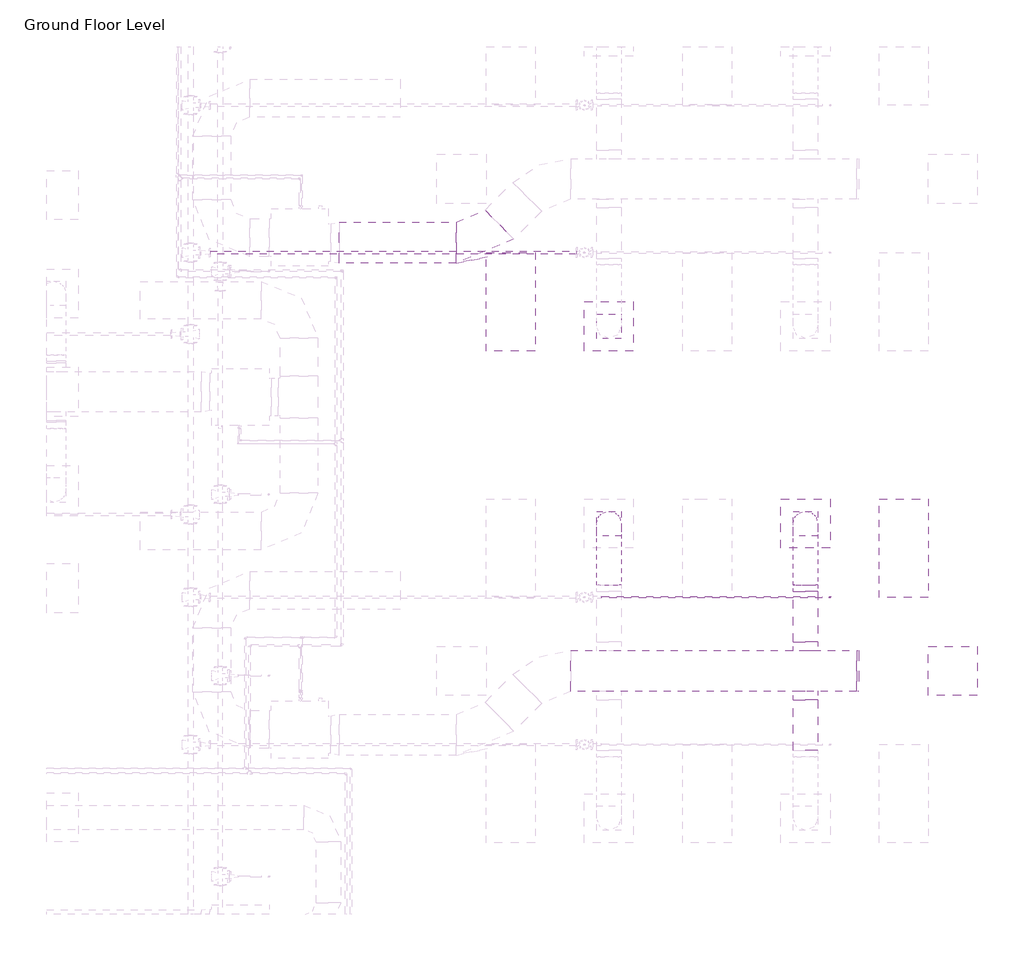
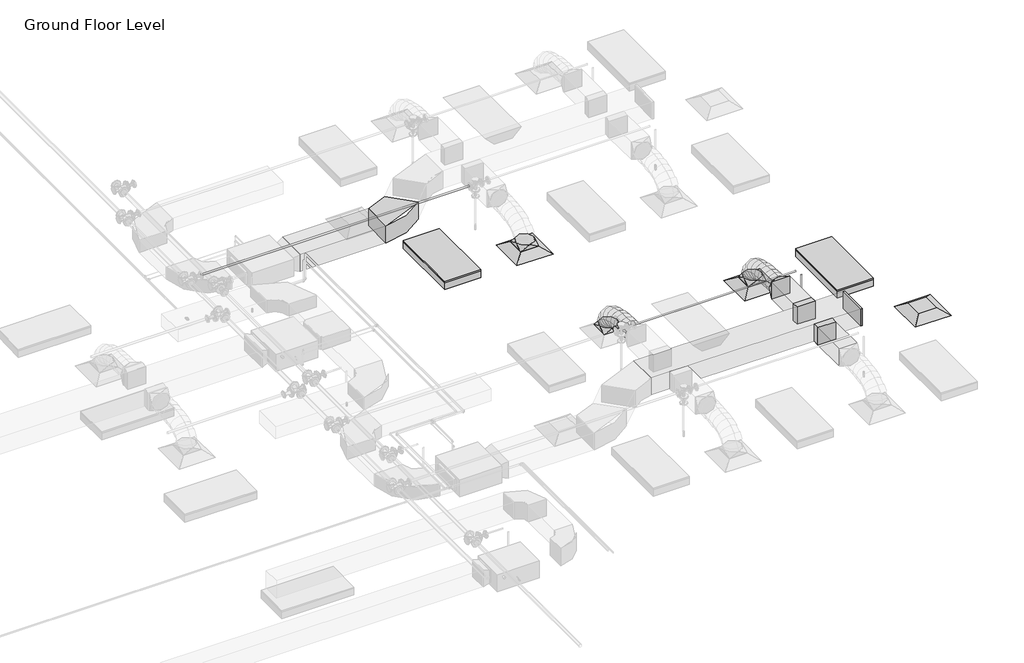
# One storey, part 63 of 74: 8 duct fittings, 6 duct segments, 3 air terminals, 3 pipe segments, 2 light fixtures, 1 fire suppression terminal.
"""IFC4 building model written with IfcOpenShell, lengths in millimetres."""

from ifc_helpers import new_model, si_unit, point, frame, frame_2d, origin, place, context, project, spatial, polyline, circle_curve, ellipse_curve, trimmed, segment, composite_curve, outline, extrude, transform, mapped, element, save
from ifc_brep_helpers import plane_surface, cylinder_surface, advanced_brep
from components import m_return_diffuser_600_x_600_face_300_x_300_connection_ff221211, m_rectangular_elbow_radius_1_5_w_acc56c25, m_rectangular_endcap_standard_72d4d00d, m_rectangular_takeoff_standard_cb0ccb98, m_rectangular_takeoff_standard_2be5eba1, m_rectangular_to_round_transition_angle_45_degree_641efff0, m_sprinkler_dry_pendent_hosted_15_mm_dry_pendent_9bda8e11, m_troffer_light_parabolic_rectangular1_0600x1200mm_4_lamp_86473d4a

model = new_model("IFC4")

# Units and contexts
model_context = context("Model", 3, world=origin())
ifc_project = project(units=[si_unit("LENGTHUNIT", "METRE", prefix="MILLI")], contexts=[model_context])

# Site, building, storey
site = spatial("IfcSite", under=ifc_project)
building = spatial("IfcBuilding", under=site)
storey = spatial("IfcBuildingStorey", under=building, Name="Ground Floor Level", Elevation=900.0)

# Air terminals
placement = place(None, origin())
m_return_diffuser_600_x_600_face_300_x_300_connection_shape = m_return_diffuser_600_x_600_face_300_x_300_connection_ff221211(model_context)
element("IfcAirTerminal", 1, ObjectType="M_Return Diffuser : 600 x 600 Face 300 x 300 Connection", at=placement, inside=storey, context=model_context, shape_type="MappedRepresentation", body=[
    mapped(m_return_diffuser_600_x_600_face_300_x_300_connection_shape, transform((14942.7672395, 725.2153534, 3650.0), x_axis=(1.0, 0.0, 0.0), y_axis=(0.0, 1.0, 0.0), z_axis=(0.0, 0.0, 1.0))),
])
element("IfcAirTerminal", 2, ObjectType="M_Supply Diffuser : 600 x 600 Face 300 x 300 Connection", at=placement, inside=storey, context=model_context, shape_type="MappedRepresentation", body=[
    mapped(m_return_diffuser_600_x_600_face_300_x_300_connection_shape, transform((10742.7672395, 4935.2153534, 3650.0), x_axis=(1.0, 0.0, 0.0), y_axis=(0.0, 1.0, 0.0), z_axis=(0.0, 0.0, 1.0))),
])
element("IfcAirTerminal", 3, ObjectType="M_Supply Diffuser : 600 x 600 Face 300 x 300 Connection", at=placement, inside=storey, context=model_context, shape_type="MappedRepresentation", body=[
    mapped(m_return_diffuser_600_x_600_face_300_x_300_connection_shape, transform((13142.7672395, 2525.2153534, 3650.0), x_axis=(1.0, 0.0, 0.0), y_axis=(0.0, 1.0, 0.0), z_axis=(0.0, 0.0, 1.0))),
])

# Duct fittings
m_rectangular_elbow_radius_1_5_w_shape = m_rectangular_elbow_radius_1_5_w_acc56c25(model_context)
element("IfcDuctFitting", 4, ObjectType="M_Rectangular Elbow - Radius : 1.5 W", at=placement, inside=storey, context=model_context, shape_type="MappedRepresentation", body=[
    mapped(m_rectangular_elbow_radius_1_5_w_shape, transform((9187.6927358, 5956.1779527, 4100.0047224), x_axis=(0.9999999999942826, 0.0, -3.3815582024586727e-06), y_axis=(-9.063610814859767e-12, 0.9999999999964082, -2.680306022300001e-06), z_axis=(3.3815582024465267e-06, 2.6803060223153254e-06, 0.9999999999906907))),
])
m_rectangular_endcap_standard_shape = m_rectangular_endcap_standard_72d4d00d(model_context)
element("IfcDuctFitting", 5, ObjectType="M_Rectangular Endcap : Standard", at=placement, inside=storey, context=model_context, shape_type="MappedRepresentation", body=[
    mapped(m_rectangular_endcap_standard_shape, transform((13766.7301365, 725.2153534, 4100.0), x_axis=(1.0, 0.0, 0.0), y_axis=(0.0, 1.0, 0.0), z_axis=(0.0, 0.0, 1.0))),
])
m_rectangular_takeoff_standard_shape = m_rectangular_takeoff_standard_cb0ccb98(model_context)
element("IfcDuctFitting", 6, ObjectType="M_Rectangular Takeoff : Standard", at=placement, inside=storey, context=model_context, shape_type="MappedRepresentation", body=[
    mapped(m_rectangular_takeoff_standard_shape, transform((13142.7672395, 975.2153534, 4100.0), x_axis=(0.0, 1.0, 0.0), y_axis=(1.0, 0.0, 0.0), z_axis=(0.0, 0.0, -1.0))),
])
m_rectangular_takeoff_standard_2_shape = m_rectangular_takeoff_standard_2be5eba1(model_context)
element("IfcDuctFitting", 7, ObjectType="M_Rectangular Takeoff : Standard", at=placement, inside=storey, context=model_context, shape_type="MappedRepresentation", body=[
    mapped(m_rectangular_takeoff_standard_2_shape, transform((13142.7672395, 475.2153534, 4100.0), x_axis=(0.0, -1.0, 0.0), y_axis=(-1.0, 0.0, 0.0), z_axis=(0.0, 0.0, -1.0))),
])
m_rectangular_to_round_transition_angle_45_degree_shape = m_rectangular_to_round_transition_angle_45_degree_641efff0(model_context)
element("IfcDuctFitting", 8, ObjectType="M_Rectangular to Round Transition - Angle : 45 Degree", at=placement, inside=storey, context=model_context, shape_type="MappedRepresentation", body=[
    mapped(m_rectangular_to_round_transition_angle_45_degree_shape, transform((10742.7672395, 2525.2153534, 3751.6), x_axis=(0.0, 0.0, 1.0), y_axis=(-1.0, 0.0, 0.0), z_axis=(0.0, -1.0, 0.0))),
])
element("IfcDuctFitting", 9, ObjectType="M_Rectangular to Round Transition - Angle : 45 Degree", at=placement, inside=storey, context=model_context, shape_type="MappedRepresentation", body=[
    mapped(m_rectangular_to_round_transition_angle_45_degree_shape, transform((13142.7672395, 2525.2153534, 3751.6), x_axis=(0.0, 0.0, 1.0), y_axis=(-1.0, 0.0, 0.0), z_axis=(0.0, -1.0, 0.0))),
])
element("IfcDuctFitting", 10, ObjectType="M_Rectangular to Round Transition - Angle : 45 Degree", at=placement, inside=storey, context=model_context, shape_type="MappedRepresentation", body=[
    mapped(m_rectangular_to_round_transition_angle_45_degree_shape, transform((13142.7672395, 1697.8794221, 4100.0), x_axis=(0.0, 1.0, 0.0), y_axis=(-1.0, 0.0, 0.0), z_axis=(0.0, 0.0, 1.0))),
])
element("IfcDuctFitting", 11, ObjectType="M_Rectangular to Round Transition - Angle : 45 Degree", at=placement, inside=storey, context=model_context, shape_type="MappedRepresentation", body=[
    mapped(m_rectangular_to_round_transition_angle_45_degree_shape, transform((10742.7672395, 4935.2153534, 3751.6), x_axis=(0.0, 0.0, 1.0), y_axis=(-1.0, 0.0, 0.0), z_axis=(0.0, -1.0, 0.0))),
])

# Duct segments
element("IfcDuctSegment", 12, ObjectType="Flex - Round", at=placement, inside=storey, context=model_context, shape_type="AdvancedBrep", body=[
    advanced_brep(
    [(10892.7672395, 2525.2153534, 3826.6), (10742.7672395, 2375.2153534, 3826.6), (10592.7672395, 2525.2153534, 3826.6), (10742.7672395, 2675.2153534, 3826.6), (10892.7672395, 2525.2153534, 3857.9377114), (10742.7672395, 2375.2153534, 3832.2944892), (10592.7672395, 2525.2153534, 3857.9377114), (10742.7672395, 2675.2153534, 3883.5809337), (10892.7672395, 2508.1994208, 3906.2505728), (10742.7672395, 2374.4614419, 3834.435049), (10592.7672395, 2508.1994208, 3906.2505728), (10742.7672395, 2641.9373998, 3978.0660967), (10892.7672395, 2461.0155405, 3968.7113131), (10742.7672395, 2356.8096412, 3857.8020236), (10592.7672395, 2461.0155405, 3968.7113131), (10742.7672395, 2565.2214397, 4079.6206026), (10892.7672395, 2389.4595883, 4016.0700639), (10742.7672395, 2320.5255327, 3881.8163788), (10592.7672395, 2389.4595883, 4016.0700639), (10742.7672395, 2458.3936439, 4150.3237489), (10892.7672395, 2299.3274403, 4050.4146682), (10742.7672395, 2255.7666771, 3906.4925606), (10592.7672395, 2299.3274403, 4050.4146682), (10742.7672395, 2342.8882035, 4194.3367758), (10892.7672395, 2196.4149725, 4073.8329691), (10742.7672395, 2169.8540485, 3926.0424542), (10592.7672395, 2196.4149725, 4073.8329691), (10742.7672395, 2222.9758965, 4221.6234841), (10892.7672395, 2086.5180607, 4088.4128097), (10742.7672395, 2071.3671584, 3939.1085462), (10592.7672395, 2086.5180607, 4088.4128097), (10742.7672395, 2101.6689631, 4237.7170733), (10892.7672395, 1975.4325811, 4096.242033), (10742.7672395, 1967.9272529, 3946.398915), (10592.7672395, 1975.4325811, 4096.242033), (10742.7672395, 1982.9379093, 4246.085151), (10892.7672395, 1868.9544096, 4099.4084821), (10742.7672395, 1866.2629165, 3949.4222102), (10592.7672395, 1868.9544096, 4099.4084821), (10742.7672395, 1871.6459027, 4249.394754), (10892.7672395, 1772.8794221, 4100.0), (10742.7672395, 1773.8029299, 4249.9971571), (10592.7672395, 1772.8794221, 4100.0), (10742.7672395, 1771.9559143, 3950.0028429)],
    [
        (0, 1, circle_curve(frame((10742.7672395, 2525.2153534, 3826.6), z_axis=(0.0, 0.0, -1.0), x_axis=(1.0, 0.0, 0.0)), 150.0)),
        (1, 2, circle_curve(frame((10742.7672395, 2525.2153534, 3826.6), z_axis=(0.0, 0.0, -1.0), x_axis=(1.0, 0.0, 0.0)), 150.0)),
        (2, 3, circle_curve(frame((10742.7672395, 2525.2153534, 3826.6), z_axis=(0.0, 0.0, -1.0), x_axis=(1.0, 0.0, 0.0)), 150.0)),
        (3, 0, circle_curve(frame((10742.7672395, 2525.2153534, 3826.6), z_axis=(0.0, 0.0, -1.0), x_axis=(1.0, 0.0, 0.0)), 150.0)),
        (0, 4),
        (4, 5, ellipse_curve(frame((10742.7672395, 2525.2153534, 3857.9377114), z_axis=(0.0, 0.16851014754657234, -0.9856999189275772), x_axis=(0.0, -0.9856999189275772, -0.1685101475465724)), 152.176131, 150.0)),
        (5, 1),
        (5, 6, ellipse_curve(frame((10742.7672395, 2525.2153534, 3857.9377114), z_axis=(0.0, 0.16851014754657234, -0.9856999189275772), x_axis=(0.0, -0.9856999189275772, -0.1685101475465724)), 152.176131, 150.0)),
        (6, 2),
        (6, 7, ellipse_curve(frame((10742.7672395, 2525.2153534, 3857.9377114), z_axis=(0.0, 0.16851014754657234, -0.9856999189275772), x_axis=(0.0, -0.9856999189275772, -0.1685101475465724)), 152.176131, 150.0)),
        (7, 3),
        (7, 4, ellipse_curve(frame((10742.7672395, 2525.2153534, 3857.9377114), z_axis=(0.0, 0.16851014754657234, -0.9856999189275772), x_axis=(0.0, -0.9856999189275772, -0.1685101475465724)), 152.176131, 150.0)),
        (4, 8),
        (8, 9, ellipse_curve(frame((10742.7672395, 2508.1994208, 3906.2505728), z_axis=(0.0, 0.47309225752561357, -0.8810128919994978), x_axis=(0.0, -0.8810128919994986, -0.47309225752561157)), 151.8002519, 150.0)),
        (9, 5),
        (9, 10, ellipse_curve(frame((10742.7672395, 2508.1994208, 3906.2505728), z_axis=(0.0, 0.47309225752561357, -0.8810128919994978), x_axis=(0.0, -0.8810128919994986, -0.47309225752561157)), 151.8002519, 150.0)),
        (10, 6),
        (10, 11, ellipse_curve(frame((10742.7672395, 2508.1994208, 3906.2505728), z_axis=(0.0, 0.47309225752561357, -0.8810128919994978), x_axis=(0.0, -0.8810128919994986, -0.47309225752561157)), 151.8002519, 150.0)),
        (11, 7),
        (11, 8, ellipse_curve(frame((10742.7672395, 2508.1994208, 3906.2505728), z_axis=(0.0, 0.47309225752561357, -0.8810128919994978), x_axis=(0.0, -0.8810128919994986, -0.47309225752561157)), 151.8002519, 150.0)),
        (8, 12),
        (12, 13, ellipse_curve(frame((10742.7672395, 2461.0155405, 3968.7113131), z_axis=(0.0, 0.7287877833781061, -0.6847396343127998), x_axis=(0.0, -0.6847396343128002, -0.7287877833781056)), 152.1832446, 150.0)),
        (13, 9),
        (13, 14, ellipse_curve(frame((10742.7672395, 2461.0155405, 3968.7113131), z_axis=(0.0, 0.7287877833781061, -0.6847396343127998), x_axis=(0.0, -0.6847396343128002, -0.7287877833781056)), 152.1832446, 150.0)),
        (14, 10),
        (14, 15, ellipse_curve(frame((10742.7672395, 2461.0155405, 3968.7113131), z_axis=(0.0, 0.7287877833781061, -0.6847396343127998), x_axis=(0.0, -0.6847396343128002, -0.7287877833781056)), 152.1832446, 150.0)),
        (15, 11),
        (15, 12, ellipse_curve(frame((10742.7672395, 2461.0155405, 3968.7113131), z_axis=(0.0, 0.7287877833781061, -0.6847396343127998), x_axis=(0.0, -0.6847396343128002, -0.7287877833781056)), 152.1832446, 150.0)),
        (12, 16),
        (16, 17, ellipse_curve(frame((10742.7672395, 2389.4595883, 4016.0700639), z_axis=(0.0, 0.8895859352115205, -0.45676784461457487), x_axis=(0.0, -0.4567678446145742, -0.8895859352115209)), 150.91705, 150.0)),
        (17, 13),
        (17, 18, ellipse_curve(frame((10742.7672395, 2389.4595883, 4016.0700639), z_axis=(0.0, 0.8895859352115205, -0.45676784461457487), x_axis=(0.0, -0.4567678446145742, -0.8895859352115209)), 150.91705, 150.0)),
        (18, 14),
        (18, 19, ellipse_curve(frame((10742.7672395, 2389.4595883, 4016.0700639), z_axis=(0.0, 0.8895859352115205, -0.45676784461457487), x_axis=(0.0, -0.4567678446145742, -0.8895859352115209)), 150.91705, 150.0)),
        (19, 15),
        (19, 16, ellipse_curve(frame((10742.7672395, 2389.4595883, 4016.0700639), z_axis=(0.0, 0.8895859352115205, -0.45676784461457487), x_axis=(0.0, -0.4567678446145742, -0.8895859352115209)), 150.91705, 150.0)),
        (16, 20),
        (20, 21, ellipse_curve(frame((10742.7672395, 2299.3274403, 4050.4146682), z_axis=(0.0, 0.9571203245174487, -0.2896906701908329), x_axis=(0.0, -0.28969067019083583, -0.9571203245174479)), 150.369921, 150.0)),
        (21, 17),
        (21, 22, ellipse_curve(frame((10742.7672395, 2299.3274403, 4050.4146682), z_axis=(0.0, 0.9571203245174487, -0.2896906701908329), x_axis=(0.0, -0.28969067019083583, -0.9571203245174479)), 150.369921, 150.0)),
        (22, 18),
        (22, 23, ellipse_curve(frame((10742.7672395, 2299.3274403, 4050.4146682), z_axis=(0.0, 0.9571203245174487, -0.2896906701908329), x_axis=(0.0, -0.28969067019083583, -0.9571203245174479)), 150.369921, 150.0)),
        (23, 19),
        (23, 20, ellipse_curve(frame((10742.7672395, 2299.3274403, 4050.4146682), z_axis=(0.0, 0.9571203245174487, -0.2896906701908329), x_axis=(0.0, -0.28969067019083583, -0.9571203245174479)), 150.369921, 150.0)),
        (20, 24),
        (24, 25, ellipse_curve(frame((10742.7672395, 2196.4149725, 4073.8329691), z_axis=(0.0, 0.9842313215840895, -0.1768861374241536), x_axis=(0.0, -0.1768861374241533, -0.9842313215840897)), 150.1583131, 150.0)),
        (25, 21),
        (25, 26, ellipse_curve(frame((10742.7672395, 2196.4149725, 4073.8329691), z_axis=(0.0, 0.9842313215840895, -0.1768861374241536), x_axis=(0.0, -0.1768861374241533, -0.9842313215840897)), 150.1583131, 150.0)),
        (26, 22),
        (26, 27, ellipse_curve(frame((10742.7672395, 2196.4149725, 4073.8329691), z_axis=(0.0, 0.9842313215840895, -0.1768861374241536), x_axis=(0.0, -0.1768861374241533, -0.9842313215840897)), 150.1583131, 150.0)),
        (27, 23),
        (27, 24, ellipse_curve(frame((10742.7672395, 2196.4149725, 4073.8329691), z_axis=(0.0, 0.9842313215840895, -0.1768861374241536), x_axis=(0.0, -0.1768861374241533, -0.9842313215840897)), 150.1583131, 150.0)),
        (24, 28),
        (28, 29, ellipse_curve(frame((10742.7672395, 2086.5180607, 4088.4128097), z_axis=(0.0, 0.9948906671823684, -0.10095821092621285), x_axis=(0.0, -0.10095821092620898, -0.9948906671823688)), 150.0710264, 150.0)),
        (29, 25),
        (29, 30, ellipse_curve(frame((10742.7672395, 2086.5180607, 4088.4128097), z_axis=(0.0, 0.9948906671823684, -0.10095821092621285), x_axis=(0.0, -0.10095821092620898, -0.9948906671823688)), 150.0710264, 150.0)),
        (30, 26),
        (30, 31, ellipse_curve(frame((10742.7672395, 2086.5180607, 4088.4128097), z_axis=(0.0, 0.9948906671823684, -0.10095821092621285), x_axis=(0.0, -0.10095821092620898, -0.9948906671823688)), 150.0710264, 150.0)),
        (31, 27),
        (31, 28, ellipse_curve(frame((10742.7672395, 2086.5180607, 4088.4128097), z_axis=(0.0, 0.9948906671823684, -0.10095821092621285), x_axis=(0.0, -0.10095821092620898, -0.9948906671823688)), 150.0710264, 150.0)),
        (28, 32),
        (32, 33, ellipse_curve(frame((10742.7672395, 1975.4325811, 4096.242033), z_axis=(0.0, 0.9987479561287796, -0.050025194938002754), x_axis=(0.0, -0.05002519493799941, -0.99874795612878)), 150.0309634, 150.0)),
        (33, 29),
        (33, 34, ellipse_curve(frame((10742.7672395, 1975.4325811, 4096.242033), z_axis=(0.0, 0.9987479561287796, -0.050025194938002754), x_axis=(0.0, -0.05002519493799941, -0.99874795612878)), 150.0309634, 150.0)),
        (34, 30),
        (34, 35, ellipse_curve(frame((10742.7672395, 1975.4325811, 4096.242033), z_axis=(0.0, 0.9987479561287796, -0.050025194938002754), x_axis=(0.0, -0.05002519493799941, -0.99874795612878)), 150.0309634, 150.0)),
        (35, 31),
        (35, 32, ellipse_curve(frame((10742.7672395, 1975.4325811, 4096.242033), z_axis=(0.0, 0.9987479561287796, -0.050025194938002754), x_axis=(0.0, -0.05002519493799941, -0.99874795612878)), 150.0309634, 150.0)),
        (32, 36),
        (36, 37, ellipse_curve(frame((10742.7672395, 1868.9544096, 4099.4084821), z_axis=(0.0, 0.9998390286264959, -0.01794204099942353), x_axis=(0.0, -0.017942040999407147, -0.9998390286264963)), 150.0104193, 150.0)),
        (37, 33),
        (37, 38, ellipse_curve(frame((10742.7672395, 1868.9544096, 4099.4084821), z_axis=(0.0, 0.9998390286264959, -0.01794204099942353), x_axis=(0.0, -0.017942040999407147, -0.9998390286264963)), 150.0104193, 150.0)),
        (38, 34),
        (38, 39, ellipse_curve(frame((10742.7672395, 1868.9544096, 4099.4084821), z_axis=(0.0, 0.9998390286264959, -0.01794204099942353), x_axis=(0.0, -0.017942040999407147, -0.9998390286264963)), 150.0104193, 150.0)),
        (39, 35),
        (39, 36, ellipse_curve(frame((10742.7672395, 1868.9544096, 4099.4084821), z_axis=(0.0, 0.9998390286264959, -0.01794204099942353), x_axis=(0.0, -0.017942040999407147, -0.9998390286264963)), 150.0104193, 150.0)),
        (40, 41, circle_curve(frame((10742.7672395, 1772.8794221, 4100.0), z_axis=(0.0, -0.9999810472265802, 0.006156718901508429), x_axis=(1.0, 0.0, 0.0)), 150.0)),
        (41, 42, circle_curve(frame((10742.7672395, 1772.8794221, 4100.0), z_axis=(0.0, -0.9999810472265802, 0.006156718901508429), x_axis=(1.0, 0.0, 0.0)), 150.0)),
        (42, 43, circle_curve(frame((10742.7672395, 1772.8794221, 4100.0), z_axis=(0.0, -0.9999810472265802, 0.006156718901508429), x_axis=(1.0, 0.0, 0.0)), 150.0)),
        (43, 40, circle_curve(frame((10742.7672395, 1772.8794221, 4100.0), z_axis=(0.0, -0.9999810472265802, 0.006156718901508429), x_axis=(1.0, 0.0, 0.0)), 150.0)),
        (36, 40),
        (43, 37),
        (42, 38),
        (41, 39),
    ],
    [
        plane_surface(frame((10742.7672395, 2375.2153534, 3826.6), z_axis=(0.0, 0.0, -1.0), x_axis=(1.0, 0.0, 0.0))),
        cylinder_surface(frame((10742.7672395, 2525.2153534, 3826.6), z_axis=(0.0, 0.0, -1.0), x_axis=(1.0, 0.0, 0.0)), 150.0),
        cylinder_surface(frame((10742.7672395, 2525.2153534, 3857.9377114), z_axis=(0.0, 0.3322008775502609, -0.9432086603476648), x_axis=(1.0, 0.0, 0.0)), 150.0),
        cylinder_surface(frame((10742.7672395, 2508.1994208, 3906.2505728), z_axis=(0.0, 0.6027625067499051, -0.7979206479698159), x_axis=(1.0, 0.0, 0.0)), 150.0),
        cylinder_surface(frame((10742.7672395, 2461.0155405, 3968.7113131), z_axis=(0.0, 0.8339024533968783, -0.5519118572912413), x_axis=(1.0, 0.0, 0.0)), 150.0),
        cylinder_surface(frame((10742.7672395, 2389.4595883, 4016.0700639), z_axis=(0.0, 0.9344582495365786, -0.35607271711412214), x_axis=(1.0, 0.0, 0.0)), 150.0),
        cylinder_surface(frame((10742.7672395, 2299.3274403, 4050.4146682), z_axis=(0.0, 0.9750732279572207, -0.22188330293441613), x_axis=(1.0, 0.0, 0.0)), 150.0),
        cylinder_surface(frame((10742.7672395, 2196.4149725, 4073.8329691), z_axis=(0.0, 0.9913140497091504, -0.13151598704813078), x_axis=(1.0, 0.0, 0.0)), 150.0),
        cylinder_surface(frame((10742.7672395, 2086.5180607, 4088.4128097), z_axis=(0.0, 0.9975255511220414, -0.07030487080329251), x_axis=(1.0, 0.0, 0.0)), 150.0),
        cylinder_surface(frame((10742.7672395, 1975.4325811, 4096.242033), z_axis=(0.0, 0.9995581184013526, -0.029724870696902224), x_axis=(1.0, 0.0, 0.0)), 150.0),
        plane_surface(frame((10742.7672395, 1771.9559143, 3950.0028429), z_axis=(0.0, -0.9999810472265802, 0.006156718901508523), x_axis=(1.0, 0.0, 0.0))),
        cylinder_surface(frame((10742.7672395, 1868.9544096, 4099.4084821), z_axis=(0.0, 0.9999810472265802, -0.006156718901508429), x_axis=(1.0, 0.0, 0.0)), 150.0),
    ],
    [
        (0, [[1, 2, 3, 4]]),
        (1, [[-1, 5, 6, 7]]),
        (1, [[-2, -7, 8, 9]]),
        (1, [[-3, -9, 10, 11]]),
        (1, [[-4, -11, 12, -5]]),
        (2, [[-6, 13, 14, 15]]),
        (2, [[-8, -15, 16, 17]]),
        (2, [[-10, -17, 18, 19]]),
        (2, [[-12, -19, 20, -13]]),
        (3, [[-14, 21, 22, 23]]),
        (3, [[-16, -23, 24, 25]]),
        (3, [[-18, -25, 26, 27]]),
        (3, [[-20, -27, 28, -21]]),
        (4, [[-22, 29, 30, 31]]),
        (4, [[-24, -31, 32, 33]]),
        (4, [[-26, -33, 34, 35]]),
        (4, [[-28, -35, 36, -29]]),
        (5, [[-30, 37, 38, 39]]),
        (5, [[-32, -39, 40, 41]]),
        (5, [[-34, -41, 42, 43]]),
        (5, [[-36, -43, 44, -37]]),
        (6, [[-38, 45, 46, 47]]),
        (6, [[-40, -47, 48, 49]]),
        (6, [[-42, -49, 50, 51]]),
        (6, [[-44, -51, 52, -45]]),
        (7, [[-46, 53, 54, 55]]),
        (7, [[-48, -55, 56, 57]]),
        (7, [[-50, -57, 58, 59]]),
        (7, [[-52, -59, 60, -53]]),
        (8, [[-54, 61, 62, 63]]),
        (8, [[-56, -63, 64, 65]]),
        (8, [[-58, -65, 66, 67]]),
        (8, [[-60, -67, 68, -61]]),
        (9, [[-62, 69, 70, 71]]),
        (9, [[-64, -71, 72, 73]]),
        (9, [[-66, -73, 74, 75]]),
        (9, [[-68, -75, 76, -69]]),
        (10, [[77, 78, 79, 80]]),
        (11, [[-70, 81, -80, 82]]),
        (11, [[-72, -82, -79, 83]]),
        (11, [[-74, -83, -78, 84]]),
        (11, [[-76, -84, -77, -81]]),
    ],
),
])
element("IfcDuctSegment", 13, ObjectType="Flex - Round", at=placement, inside=storey, context=model_context, shape_type="AdvancedBrep", body=[
    advanced_brep(
    [(13292.7672395, 2525.2153534, 3826.6), (13142.7672395, 2375.2153534, 3826.6), (12992.7672395, 2525.2153534, 3826.6), (13142.7672395, 2675.2153534, 3826.6), (13292.7672395, 2525.2153534, 3857.9377114), (13142.7672395, 2375.2153534, 3832.2944892), (12992.7672395, 2525.2153534, 3857.9377114), (13142.7672395, 2675.2153534, 3883.5809337), (13292.7672395, 2508.1994208, 3906.2505728), (13142.7672395, 2374.4614419, 3834.435049), (12992.7672395, 2508.1994208, 3906.2505728), (13142.7672395, 2641.9373998, 3978.0660967), (13292.7672395, 2461.0155405, 3968.7113131), (13142.7672395, 2356.8096412, 3857.8020236), (12992.7672395, 2461.0155405, 3968.7113131), (13142.7672395, 2565.2214397, 4079.6206026), (13292.7672395, 2389.4595883, 4016.0700639), (13142.7672395, 2320.5255327, 3881.8163788), (12992.7672395, 2389.4595883, 4016.0700639), (13142.7672395, 2458.3936439, 4150.3237489), (13292.7672395, 2299.3274403, 4050.4146682), (13142.7672395, 2255.7666771, 3906.4925606), (12992.7672395, 2299.3274403, 4050.4146682), (13142.7672395, 2342.8882035, 4194.3367758), (13292.7672395, 2196.4149725, 4073.8329691), (13142.7672395, 2169.8540485, 3926.0424542), (12992.7672395, 2196.4149725, 4073.8329691), (13142.7672395, 2222.9758965, 4221.6234841), (13292.7672395, 2086.5180607, 4088.4128097), (13142.7672395, 2071.3671584, 3939.1085462), (12992.7672395, 2086.5180607, 4088.4128097), (13142.7672395, 2101.6689631, 4237.7170733), (13292.7672395, 1975.4325811, 4096.242033), (13142.7672395, 1967.9272529, 3946.398915), (12992.7672395, 1975.4325811, 4096.242033), (13142.7672395, 1982.9379093, 4246.085151), (13292.7672395, 1868.9544096, 4099.4084821), (13142.7672395, 1866.2629165, 3949.4222102), (12992.7672395, 1868.9544096, 4099.4084821), (13142.7672395, 1871.6459027, 4249.394754), (13292.7672395, 1772.8794221, 4100.0), (13142.7672395, 1773.8029299, 4249.9971571), (12992.7672395, 1772.8794221, 4100.0), (13142.7672395, 1771.9559143, 3950.0028429)],
    [
        (0, 1, circle_curve(frame((13142.7672395, 2525.2153534, 3826.6), z_axis=(0.0, 0.0, -1.0), x_axis=(1.0, 0.0, 0.0)), 150.0)),
        (1, 2, circle_curve(frame((13142.7672395, 2525.2153534, 3826.6), z_axis=(0.0, 0.0, -1.0), x_axis=(1.0, 0.0, 0.0)), 150.0)),
        (2, 3, circle_curve(frame((13142.7672395, 2525.2153534, 3826.6), z_axis=(0.0, 0.0, -1.0), x_axis=(1.0, 0.0, 0.0)), 150.0)),
        (3, 0, circle_curve(frame((13142.7672395, 2525.2153534, 3826.6), z_axis=(0.0, 0.0, -1.0), x_axis=(1.0, 0.0, 0.0)), 150.0)),
        (0, 4),
        (4, 5, ellipse_curve(frame((13142.7672395, 2525.2153534, 3857.9377114), z_axis=(0.0, 0.16851014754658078, -0.9856999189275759), x_axis=(0.0, -0.9856999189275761, -0.1685101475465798)), 152.176131, 150.0)),
        (5, 1),
        (5, 6, ellipse_curve(frame((13142.7672395, 2525.2153534, 3857.9377114), z_axis=(0.0, 0.16851014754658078, -0.9856999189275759), x_axis=(0.0, -0.9856999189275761, -0.1685101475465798)), 152.176131, 150.0)),
        (6, 2),
        (6, 7, ellipse_curve(frame((13142.7672395, 2525.2153534, 3857.9377114), z_axis=(0.0, 0.16851014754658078, -0.9856999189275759), x_axis=(0.0, -0.9856999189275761, -0.1685101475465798)), 152.176131, 150.0)),
        (7, 3),
        (7, 4, ellipse_curve(frame((13142.7672395, 2525.2153534, 3857.9377114), z_axis=(0.0, 0.16851014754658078, -0.9856999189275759), x_axis=(0.0, -0.9856999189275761, -0.1685101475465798)), 152.176131, 150.0)),
        (4, 8),
        (8, 9, ellipse_curve(frame((13142.7672395, 2508.1994208, 3906.2505728), z_axis=(0.0, 0.47309225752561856, -0.8810128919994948), x_axis=(0.0, -0.8810128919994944, -0.47309225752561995)), 151.8002519, 150.0)),
        (9, 5),
        (9, 10, ellipse_curve(frame((13142.7672395, 2508.1994208, 3906.2505728), z_axis=(0.0, 0.47309225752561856, -0.8810128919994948), x_axis=(0.0, -0.8810128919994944, -0.47309225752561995)), 151.8002519, 150.0)),
        (10, 6),
        (10, 11, ellipse_curve(frame((13142.7672395, 2508.1994208, 3906.2505728), z_axis=(0.0, 0.47309225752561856, -0.8810128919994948), x_axis=(0.0, -0.8810128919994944, -0.47309225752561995)), 151.8002519, 150.0)),
        (11, 7),
        (11, 8, ellipse_curve(frame((13142.7672395, 2508.1994208, 3906.2505728), z_axis=(0.0, 0.47309225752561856, -0.8810128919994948), x_axis=(0.0, -0.8810128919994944, -0.47309225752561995)), 151.8002519, 150.0)),
        (8, 12),
        (12, 13, ellipse_curve(frame((13142.7672395, 2461.0155405, 3968.7113131), z_axis=(0.0, 0.7287877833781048, -0.6847396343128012), x_axis=(0.0, -0.6847396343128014, -0.7287877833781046)), 152.1832446, 150.0)),
        (13, 9),
        (13, 14, ellipse_curve(frame((13142.7672395, 2461.0155405, 3968.7113131), z_axis=(0.0, 0.7287877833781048, -0.6847396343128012), x_axis=(0.0, -0.6847396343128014, -0.7287877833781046)), 152.1832446, 150.0)),
        (14, 10),
        (14, 15, ellipse_curve(frame((13142.7672395, 2461.0155405, 3968.7113131), z_axis=(0.0, 0.7287877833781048, -0.6847396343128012), x_axis=(0.0, -0.6847396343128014, -0.7287877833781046)), 152.1832446, 150.0)),
        (15, 11),
        (15, 12, ellipse_curve(frame((13142.7672395, 2461.0155405, 3968.7113131), z_axis=(0.0, 0.7287877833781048, -0.6847396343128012), x_axis=(0.0, -0.6847396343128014, -0.7287877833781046)), 152.1832446, 150.0)),
        (12, 16),
        (16, 17, ellipse_curve(frame((13142.7672395, 2389.4595883, 4016.0700639), z_axis=(0.0, 0.8895859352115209, -0.45676784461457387), x_axis=(0.0, -0.45676784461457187, -0.8895859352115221)), 150.91705, 150.0)),
        (17, 13),
        (17, 18, ellipse_curve(frame((13142.7672395, 2389.4595883, 4016.0700639), z_axis=(0.0, 0.8895859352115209, -0.45676784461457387), x_axis=(0.0, -0.45676784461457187, -0.8895859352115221)), 150.91705, 150.0)),
        (18, 14),
        (18, 19, ellipse_curve(frame((13142.7672395, 2389.4595883, 4016.0700639), z_axis=(0.0, 0.8895859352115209, -0.45676784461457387), x_axis=(0.0, -0.45676784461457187, -0.8895859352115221)), 150.91705, 150.0)),
        (19, 15),
        (19, 16, ellipse_curve(frame((13142.7672395, 2389.4595883, 4016.0700639), z_axis=(0.0, 0.8895859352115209, -0.45676784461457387), x_axis=(0.0, -0.45676784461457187, -0.8895859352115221)), 150.91705, 150.0)),
        (16, 20),
        (20, 21, ellipse_curve(frame((13142.7672395, 2299.3274403, 4050.4146682), z_axis=(0.0, 0.9571203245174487, -0.28969067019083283), x_axis=(0.0, -0.28969067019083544, -0.9571203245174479)), 150.369921, 150.0)),
        (21, 17),
        (21, 22, ellipse_curve(frame((13142.7672395, 2299.3274403, 4050.4146682), z_axis=(0.0, 0.9571203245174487, -0.28969067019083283), x_axis=(0.0, -0.28969067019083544, -0.9571203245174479)), 150.369921, 150.0)),
        (22, 18),
        (22, 23, ellipse_curve(frame((13142.7672395, 2299.3274403, 4050.4146682), z_axis=(0.0, 0.9571203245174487, -0.28969067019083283), x_axis=(0.0, -0.28969067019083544, -0.9571203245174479)), 150.369921, 150.0)),
        (23, 19),
        (23, 20, ellipse_curve(frame((13142.7672395, 2299.3274403, 4050.4146682), z_axis=(0.0, 0.9571203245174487, -0.28969067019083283), x_axis=(0.0, -0.28969067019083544, -0.9571203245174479)), 150.369921, 150.0)),
        (20, 24),
        (24, 25, ellipse_curve(frame((13142.7672395, 2196.4149725, 4073.8329691), z_axis=(0.0, 0.9842313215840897, -0.17688613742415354), x_axis=(0.0, -0.17688613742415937, -0.9842313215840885)), 150.1583131, 150.0)),
        (25, 21),
        (25, 26, ellipse_curve(frame((13142.7672395, 2196.4149725, 4073.8329691), z_axis=(0.0, 0.9842313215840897, -0.17688613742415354), x_axis=(0.0, -0.17688613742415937, -0.9842313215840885)), 150.1583131, 150.0)),
        (26, 22),
        (26, 27, ellipse_curve(frame((13142.7672395, 2196.4149725, 4073.8329691), z_axis=(0.0, 0.9842313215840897, -0.17688613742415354), x_axis=(0.0, -0.17688613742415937, -0.9842313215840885)), 150.1583131, 150.0)),
        (27, 23),
        (27, 24, ellipse_curve(frame((13142.7672395, 2196.4149725, 4073.8329691), z_axis=(0.0, 0.9842313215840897, -0.17688613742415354), x_axis=(0.0, -0.17688613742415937, -0.9842313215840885)), 150.1583131, 150.0)),
        (24, 28),
        (28, 29, ellipse_curve(frame((13142.7672395, 2086.5180607, 4088.4128097), z_axis=(0.0, 0.9948906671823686, -0.10095821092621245), x_axis=(0.0, -0.10095821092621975, -0.9948906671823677)), 150.0710264, 150.0)),
        (29, 25),
        (29, 30, ellipse_curve(frame((13142.7672395, 2086.5180607, 4088.4128097), z_axis=(0.0, 0.9948906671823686, -0.10095821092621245), x_axis=(0.0, -0.10095821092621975, -0.9948906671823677)), 150.0710264, 150.0)),
        (30, 26),
        (30, 31, ellipse_curve(frame((13142.7672395, 2086.5180607, 4088.4128097), z_axis=(0.0, 0.9948906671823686, -0.10095821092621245), x_axis=(0.0, -0.10095821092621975, -0.9948906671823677)), 150.0710264, 150.0)),
        (31, 27),
        (31, 28, ellipse_curve(frame((13142.7672395, 2086.5180607, 4088.4128097), z_axis=(0.0, 0.9948906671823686, -0.10095821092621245), x_axis=(0.0, -0.10095821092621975, -0.9948906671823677)), 150.0710264, 150.0)),
        (28, 32),
        (32, 33, ellipse_curve(frame((13142.7672395, 1975.4325811, 4096.242033), z_axis=(0.0, 0.9987479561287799, -0.05002519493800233), x_axis=(0.0, -0.05002519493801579, -0.9987479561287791)), 150.0309634, 150.0)),
        (33, 29),
        (33, 34, ellipse_curve(frame((13142.7672395, 1975.4325811, 4096.242033), z_axis=(0.0, 0.9987479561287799, -0.05002519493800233), x_axis=(0.0, -0.05002519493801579, -0.9987479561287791)), 150.0309634, 150.0)),
        (34, 30),
        (34, 35, ellipse_curve(frame((13142.7672395, 1975.4325811, 4096.242033), z_axis=(0.0, 0.9987479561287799, -0.05002519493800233), x_axis=(0.0, -0.05002519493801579, -0.9987479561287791)), 150.0309634, 150.0)),
        (35, 31),
        (35, 32, ellipse_curve(frame((13142.7672395, 1975.4325811, 4096.242033), z_axis=(0.0, 0.9987479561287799, -0.05002519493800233), x_axis=(0.0, -0.05002519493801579, -0.9987479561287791)), 150.0309634, 150.0)),
        (32, 36),
        (36, 37, ellipse_curve(frame((13142.7672395, 1868.9544096, 4099.4084821), z_axis=(0.0, 0.9998390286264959, -0.0179420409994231), x_axis=(-1.8187895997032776e-12, -0.017942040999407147, -0.9998390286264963)), 150.0104193, 150.0)),
        (37, 33),
        (37, 38, ellipse_curve(frame((13142.7672395, 1868.9544096, 4099.4084821), z_axis=(0.0, 0.9998390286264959, -0.0179420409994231), x_axis=(-1.8187895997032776e-12, -0.017942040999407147, -0.9998390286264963)), 150.0104193, 150.0)),
        (38, 34),
        (38, 39, ellipse_curve(frame((13142.7672395, 1868.9544096, 4099.4084821), z_axis=(0.0, 0.9998390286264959, -0.0179420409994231), x_axis=(-1.8187895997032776e-12, -0.017942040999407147, -0.9998390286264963)), 150.0104193, 150.0)),
        (39, 35),
        (39, 36, ellipse_curve(frame((13142.7672395, 1868.9544096, 4099.4084821), z_axis=(0.0, 0.9998390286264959, -0.0179420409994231), x_axis=(-1.8187895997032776e-12, -0.017942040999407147, -0.9998390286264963)), 150.0104193, 150.0)),
        (40, 41, circle_curve(frame((13142.7672395, 1772.8794221, 4100.0), z_axis=(0.0, -0.9999810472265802, 0.006156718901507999), x_axis=(1.0, 0.0, 0.0)), 150.0)),
        (41, 42, circle_curve(frame((13142.7672395, 1772.8794221, 4100.0), z_axis=(0.0, -0.9999810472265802, 0.006156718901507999), x_axis=(1.0, 0.0, 0.0)), 150.0)),
        (42, 43, circle_curve(frame((13142.7672395, 1772.8794221, 4100.0), z_axis=(0.0, -0.9999810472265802, 0.006156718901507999), x_axis=(1.0, 0.0, 0.0)), 150.0)),
        (43, 40, circle_curve(frame((13142.7672395, 1772.8794221, 4100.0), z_axis=(0.0, -0.9999810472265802, 0.006156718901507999), x_axis=(1.0, 0.0, 0.0)), 150.0)),
        (36, 40),
        (43, 37),
        (42, 38),
        (41, 39),
    ],
    [
        plane_surface(frame((13142.7672395, 2375.2153534, 3826.6), z_axis=(0.0, 0.0, -1.0), x_axis=(1.0, 0.0, 0.0))),
        cylinder_surface(frame((13142.7672395, 2525.2153534, 3826.6), z_axis=(0.0, 0.0, -1.0), x_axis=(1.0, 0.0, 0.0)), 150.0),
        cylinder_surface(frame((13142.7672395, 2525.2153534, 3857.9377114), z_axis=(0.0, 0.332200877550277, -0.9432086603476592), x_axis=(1.0, 0.0, 0.0)), 150.0),
        cylinder_surface(frame((13142.7672395, 2508.1994208, 3906.2505728), z_axis=(0.0, 0.6027625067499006, -0.797920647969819), x_axis=(1.0, 0.0, 0.0)), 150.0),
        cylinder_surface(frame((13142.7672395, 2461.0155405, 3968.7113131), z_axis=(0.0, 0.8339024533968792, -0.5519118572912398), x_axis=(1.0, 0.0, 0.0)), 150.0),
        cylinder_surface(frame((13142.7672395, 2389.4595883, 4016.0700639), z_axis=(0.0, 0.9344582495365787, -0.3560727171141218), x_axis=(1.0, 0.0, 0.0)), 150.0),
        cylinder_surface(frame((13142.7672395, 2299.3274403, 4050.4146682), z_axis=(0.0, 0.9750732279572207, -0.22188330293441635), x_axis=(1.0, 0.0, 0.0)), 150.0),
        cylinder_surface(frame((13142.7672395, 2196.4149725, 4073.8329691), z_axis=(0.0, 0.9913140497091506, -0.1315159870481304), x_axis=(1.0, 0.0, 0.0)), 150.0),
        cylinder_surface(frame((13142.7672395, 2086.5180607, 4088.4128097), z_axis=(0.0, 0.9975255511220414, -0.07030487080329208), x_axis=(1.0, 0.0, 0.0)), 150.0),
        cylinder_surface(frame((13142.7672395, 1975.4325811, 4096.242033), z_axis=(0.0, 0.9995581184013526, -0.029724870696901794), x_axis=(1.0, 0.0, 0.0)), 150.0),
        plane_surface(frame((13142.7672395, 1771.9559143, 3950.0028429), z_axis=(0.0, -0.9999810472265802, 0.006156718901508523), x_axis=(1.0, 0.0, 0.0))),
        cylinder_surface(frame((13142.7672395, 1868.9544096, 4099.4084821), z_axis=(0.0, 0.9999810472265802, -0.006156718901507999), x_axis=(1.0, 0.0, 0.0)), 150.0),
    ],
    [
        (0, [[1, 2, 3, 4]]),
        (1, [[-1, 5, 6, 7]]),
        (1, [[-2, -7, 8, 9]]),
        (1, [[-3, -9, 10, 11]]),
        (1, [[-4, -11, 12, -5]]),
        (2, [[-6, 13, 14, 15]]),
        (2, [[-8, -15, 16, 17]]),
        (2, [[-10, -17, 18, 19]]),
        (2, [[-12, -19, 20, -13]]),
        (3, [[-14, 21, 22, 23]]),
        (3, [[-16, -23, 24, 25]]),
        (3, [[-18, -25, 26, 27]]),
        (3, [[-20, -27, 28, -21]]),
        (4, [[-22, 29, 30, 31]]),
        (4, [[-24, -31, 32, 33]]),
        (4, [[-26, -33, 34, 35]]),
        (4, [[-28, -35, 36, -29]]),
        (5, [[-30, 37, 38, 39]]),
        (5, [[-32, -39, 40, 41]]),
        (5, [[-34, -41, 42, 43]]),
        (5, [[-36, -43, 44, -37]]),
        (6, [[-38, 45, 46, 47]]),
        (6, [[-40, -47, 48, 49]]),
        (6, [[-42, -49, 50, 51]]),
        (6, [[-44, -51, 52, -45]]),
        (7, [[-46, 53, 54, 55]]),
        (7, [[-48, -55, 56, 57]]),
        (7, [[-50, -57, 58, 59]]),
        (7, [[-52, -59, 60, -53]]),
        (8, [[-54, 61, 62, 63]]),
        (8, [[-56, -63, 64, 65]]),
        (8, [[-58, -65, 66, 67]]),
        (8, [[-60, -67, 68, -61]]),
        (9, [[-62, 69, 70, 71]]),
        (9, [[-64, -71, 72, 73]]),
        (9, [[-66, -73, 74, 75]]),
        (9, [[-68, -75, 76, -69]]),
        (10, [[77, 78, 79, 80]]),
        (11, [[-70, 81, -80, 82]]),
        (11, [[-72, -82, -79, 83]]),
        (11, [[-74, -83, -78, 84]]),
        (11, [[-76, -84, -77, -81]]),
    ],
),
])
element("IfcDuctSegment", 14, ObjectType="Radius Elbows / Taps", at=placement, inside=storey, context=model_context, shape_type="SweptSolid", body=[
    extrude(outline(polyline([(7447.693178, 5706.1779527), (7447.693178, 6206.1779527), (8877.032564, 6206.1779527), (8877.032564, 5706.1779527), (7447.693178, 5706.1779527)])), frame((0.0, 0.0, 3950.0057729), z_axis=(0.0, 0.0, 1.0), x_axis=(1.0, 0.0, 0.0)), (0.0, 0.0, 1.0), 300.0),
])
element("IfcDuctSegment", 15, ObjectType="Radius Elbows / Taps", at=placement, inside=storey, context=model_context, shape_type="SweptSolid", body=[
    extrude(outline(polyline([(10277.3903083, 475.2153534), (10277.3903083, 975.2153534), (13766.7301365, 975.2153534), (13766.7301365, 475.2153534), (10277.3903083, 475.2153534)])), frame((0.0, 0.0, 3950.0), z_axis=(0.0, 0.0, 1.0), x_axis=(1.0, 0.0, 0.0)), (0.0, 0.0, 1.0), 300.0),
])
element("IfcDuctSegment", 16, ObjectType="Radius Elbows / Taps", at=placement, inside=storey, context=model_context, shape_type="SweptSolid", body=[
    extrude(outline(polyline([(13292.7672395, 1076.8153534), (12992.7672395, 1076.8153534), (12992.7672395, 1697.8794221), (13292.7672395, 1697.8794221), (13292.7672395, 1076.8153534)])), frame((0.0, 0.0, 3950.0), z_axis=(0.0, 0.0, 1.0), x_axis=(1.0, 0.0, 0.0)), (0.0, 0.0, 1.0), 300.0),
])
element("IfcDuctSegment", 17, ObjectType="Radius Elbows / Taps", at=placement, inside=storey, context=model_context, shape_type="SweptSolid", body=[
    extrude(outline(polyline([(12992.7672395, 373.6153534), (13292.7672395, 373.6153534), (13292.7672395, -247.4487153), (12992.7672395, -247.4487153), (12992.7672395, 373.6153534)])), frame((0.0, 0.0, 3950.0), z_axis=(0.0, 0.0, 1.0), x_axis=(1.0, 0.0, 0.0)), (0.0, 0.0, 1.0), 300.0),
])

# Fire suppression terminal
m_sprinkler_dry_pendent_hosted_15_mm_dry_pendent_shape = m_sprinkler_dry_pendent_hosted_15_mm_dry_pendent_9bda8e11(model_context)
element("IfcFireSuppressionTerminal", 18, ObjectType="M_Sprinkler - Dry - Pendent - Hosted : 15 mm Dry Pendent", at=placement, inside=storey, context=model_context, shape_type="MappedRepresentation", body=[
    mapped(m_sprinkler_dry_pendent_hosted_15_mm_dry_pendent_shape, transform((13442.7672395, 1625.2153534, 3650.0), x_axis=(1.0, 0.0, 0.0), y_axis=(0.0, -1.0, 0.0), z_axis=(0.0, 0.0, -1.0))),
])

# Light fixtures
m_troffer_light_parabolic_rectangular1_0600x1200mm_4_lamp_shape = m_troffer_light_parabolic_rectangular1_0600x1200mm_4_lamp_86473d4a(model_context)
element("IfcLightFixture", 19, ObjectType="M_Troffer Light - Parabolic Rectangular1 : 0600x1200mm(4 Lamp) - 277V 2", at=placement, inside=storey, context=model_context, shape_type="MappedRepresentation", body=[
    mapped(m_troffer_light_parabolic_rectangular1_0600x1200mm_4_lamp_shape, transform((9483.3013074, 5253.9188549, 3650.0), x_axis=(0.0, 1.0, 0.0), y_axis=(-1.0, 0.0, 0.0), z_axis=(0.0, 0.0, 1.0))),
])
element("IfcLightFixture", 20, ObjectType="M_Troffer Light - Parabolic Rectangular1 : 0600x1200mm(4 Lamp) - 277V 2", at=placement, inside=storey, context=model_context, shape_type="MappedRepresentation", body=[
    mapped(m_troffer_light_parabolic_rectangular1_0600x1200mm_4_lamp_shape, transform((14283.3013074, 2243.918855, 3650.0), x_axis=(0.0, 1.0, 0.0), y_axis=(-1.0, 0.0, 0.0), z_axis=(0.0, 0.0, 1.0))),
])

# Pipe segments
element("IfcPipeSegment", 21, ObjectType="Steel flanged", at=placement, inside=storey, context=model_context, shape_type="SweptSolid", body=[
    extrude(outline(composite_curve([segment(trimmed(circle_curve(frame_2d((13442.7672395, 1625.2153534)), 10.668), [point((13432.0992395, 1625.2153534))], [point((13442.7672395, 1635.8833534))], False, "CARTESIAN"), True, "CONTINUOUS"), segment(trimmed(circle_curve(frame_2d((13442.7672395, 1625.2153534)), 10.668), [point((13442.7672395, 1635.8833534))], [point((13453.4352395, 1625.2153534))], False, "CARTESIAN"), True, "CONTINUOUS"), segment(trimmed(circle_curve(frame_2d((13442.7672395, 1625.2153534)), 10.668), [point((13453.4352395, 1625.2153534))], [point((13442.7672395, 1614.5473534))], False, "CARTESIAN"), True, "CONTINUOUS"), segment(trimmed(circle_curve(frame_2d((13442.7672395, 1625.2153534)), 10.668), [point((13442.7672395, 1614.5473534))], [point((13432.0992395, 1625.2153534))], False, "CARTESIAN"), True, "CONTINUOUS")], self_intersect=False)), frame((0.0, 0.0, 3650.0), z_axis=(0.0, 0.0, 1.0), x_axis=(1.0, 0.0, 0.0)), (0.0, 0.0, 1.0), 616.9914062),
])
element("IfcPipeSegment", 22, ObjectType="Steel flanged", at=placement, inside=storey, context=model_context, shape_type="SweptSolid", body=[
    extrude(outline(composite_curve([segment(trimmed(circle_curve(frame_2d((5835.2153534, 4360.0)), 16.7005), [point((5851.9158534, 4360.0))], [point((5835.2153534, 4343.2995))], False, "CARTESIAN"), True, "CONTINUOUS"), segment(trimmed(circle_curve(frame_2d((5835.2153534, 4360.0)), 16.7005), [point((5835.2153534, 4343.2995))], [point((5818.5148534, 4360.0))], False, "CARTESIAN"), True, "CONTINUOUS"), segment(trimmed(circle_curve(frame_2d((5835.2153534, 4360.0)), 16.7005), [point((5818.5148534, 4360.0))], [point((5835.2153534, 4376.7005))], False, "CARTESIAN"), True, "CONTINUOUS"), segment(trimmed(circle_curve(frame_2d((5835.2153534, 4360.0)), 16.7005), [point((5835.2153534, 4376.7005))], [point((5851.9158534, 4360.0))], False, "CARTESIAN"), True, "CONTINUOUS")], self_intersect=False)), frame((5876.869498, 0.0, 0.0), z_axis=(1.0, 0.0, 0.0), x_axis=(0.0, 1.0, 0.0)), (0.0, 0.0, 1.0), 4465.1891477),
])
element("IfcPipeSegment", 23, ObjectType="Steel flanged", at=placement, inside=storey, context=model_context, shape_type="SweptSolid", body=[
    extrude(outline(composite_curve([segment(trimmed(circle_curve(frame_2d((1625.2153534, 4360.0)), 10.668), [point((1635.8833534, 4360.0))], [point((1625.2153534, 4349.332))], False, "CARTESIAN"), True, "CONTINUOUS"), segment(trimmed(circle_curve(frame_2d((1625.2153534, 4360.0)), 10.668), [point((1625.2153534, 4349.332))], [point((1614.5473534, 4360.0))], False, "CARTESIAN"), True, "CONTINUOUS"), segment(trimmed(circle_curve(frame_2d((1625.2153534, 4360.0)), 10.668), [point((1614.5473534, 4360.0))], [point((1625.2153534, 4370.668))], False, "CARTESIAN"), True, "CONTINUOUS"), segment(trimmed(circle_curve(frame_2d((1625.2153534, 4360.0)), 10.668), [point((1625.2153534, 4370.668))], [point((1635.8833534, 4360.0))], False, "CARTESIAN"), True, "CONTINUOUS")], self_intersect=False)), frame((10657.4758332, 0.0, 0.0), z_axis=(1.0, 0.0, 0.0), x_axis=(0.0, 1.0, 0.0)), (0.0, 0.0, 1.0), 2692.2828125),
])

save(model, "model.ifc")
